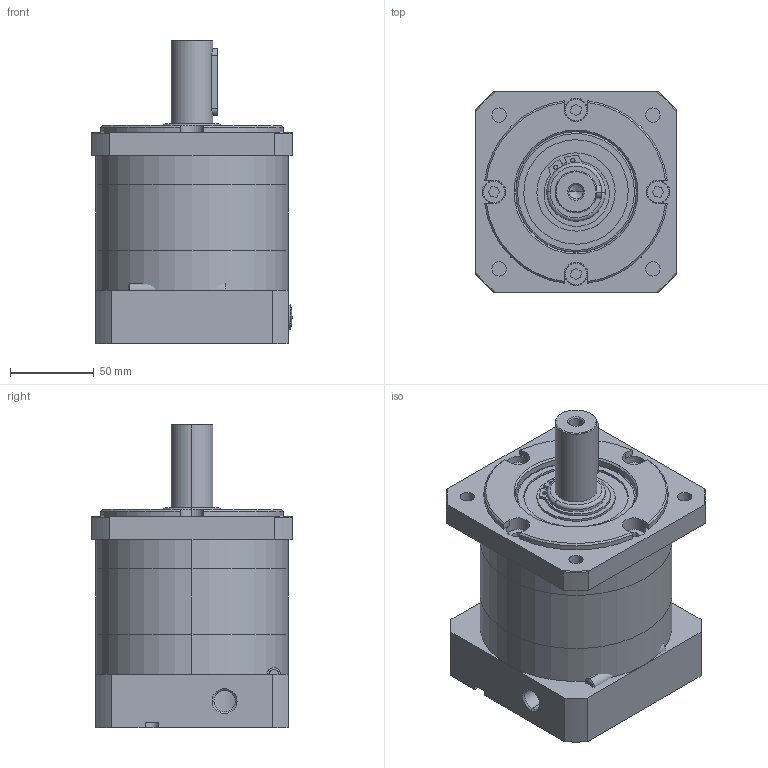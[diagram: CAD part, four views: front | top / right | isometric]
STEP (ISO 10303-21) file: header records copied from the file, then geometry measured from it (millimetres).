
FILE_DESCRIPTION (( 'STEP AP203' ), '1' );
FILE_NAME ('PF115L1-i-P2-S2-19-40-70-90-M6.step', '2020-03-23T09:05:14', ( '个人用户' ), ( '微软中国' ), 'SwSTEP 2.0', 'SolidWorks 2018', '' );
FILE_SCHEMA (( 'CONFIG_CONTROL_DESIGN' ));
Length unit declared in the file: millimetre
Products named in the file (1): PF115L1-i-P2-S2-19-40-70-90-M6
Bounding box: 120 x 120 x 181.5 mm (x, y, z)
Volume: 1174144.9 mm3; surface area: 280143.1 mm2
Topology: 30 solids, 30 shells, 1009 faces, 2378 edges, 1512 vertices
Faces by surface type: cylinder 357, plane 273, sphere 170, cone 109, torus 98, bspline 2
Entity records: 35378 total; most frequent: CARTESIAN_POINT 11484, DIRECTION 5333, ORIENTED_EDGE 4724, EDGE_CURVE 2362, AXIS2_PLACEMENT_3D 2291, VERTEX_POINT 1512, CIRCLE 1283, EDGE_LOOP 1204
